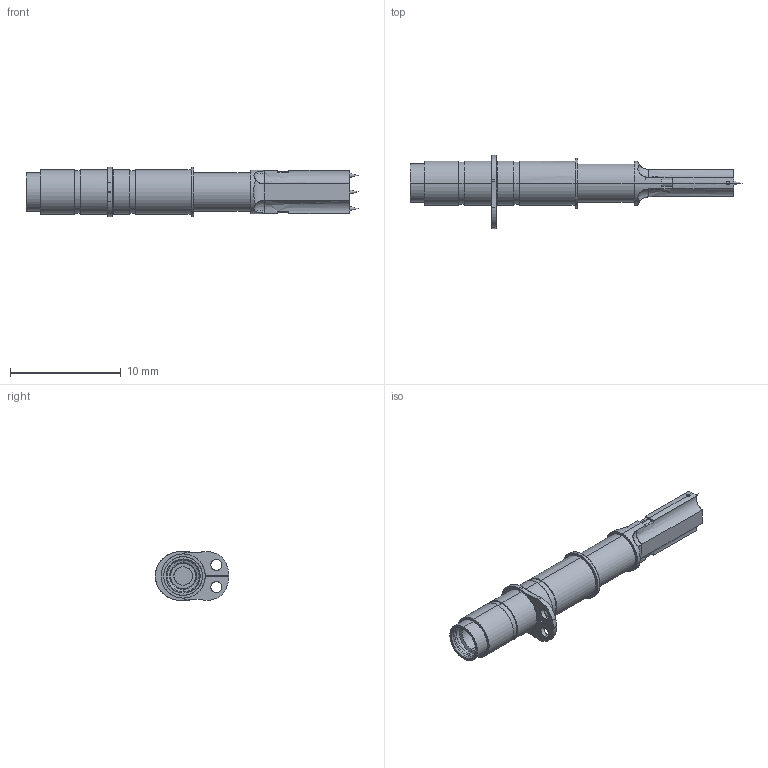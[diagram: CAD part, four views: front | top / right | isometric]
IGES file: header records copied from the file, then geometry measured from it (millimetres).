
Start section: SolidWorks IGES file using analytic representation for surfaces
Global section: file name: Y:\HomeCPG\probe solid model mockups\Solidworks models\Non-catalog IGES files\CSP-40B-012 IGES files\CSP-40B-012 RECD.IGS; native system: SolidWorks 2006 by SolidWorks Corporation; preprocessor: SolidWorks 2006 by SolidWorks Corporation; author: tsakatani; date: 080129.133621; units: inch
Bounding box: 30 x 6.63 x 4.5 mm (x, y, z)
Surface area: 682 mm2 (no closed solid volume)
Topology: 0 solids, 0 shells, 178 faces, 2261 edges, 2255 vertices
Faces by surface type: revolution 117, bspline 61
